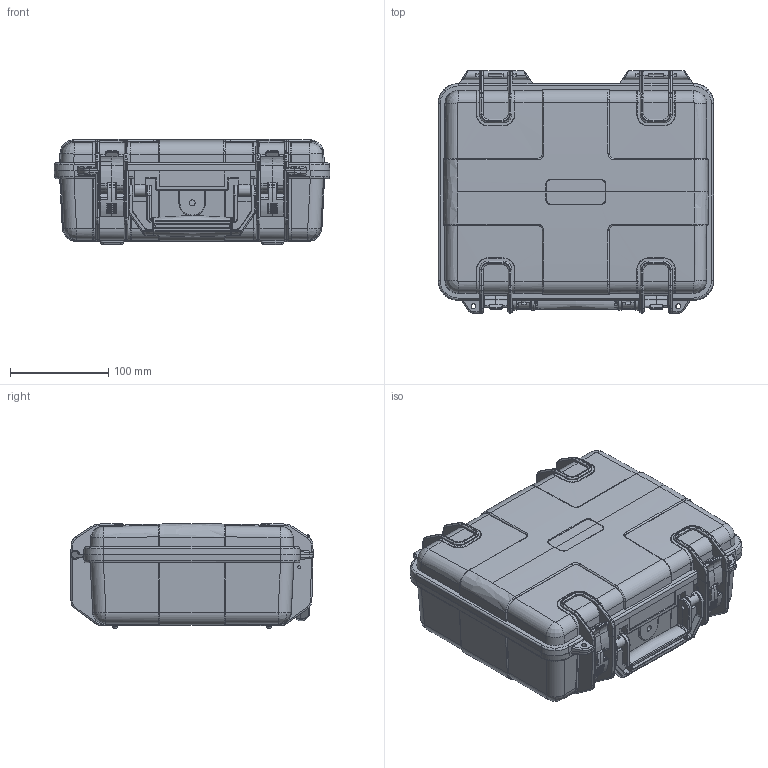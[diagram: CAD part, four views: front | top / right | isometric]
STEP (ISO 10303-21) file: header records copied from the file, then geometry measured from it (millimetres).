
FILE_DESCRIPTION(('FreeCAD Model'),'2;1');
FILE_NAME('Open CASCADE Shape Model','2024-08-30T09:24:37',( 'Lukas Balthasar Pank'),('Astera LED Technology GmbH'), 'Open CASCADE STEP processor 7.6','FreeCAD','Unknown');
FILE_SCHEMA(('AUTOMOTIVE_DESIGN { 1 0 10303 214 1 1 1 1 }'));
Length unit declared in the file: millimetre
Products named in the file (41): FP7-ACCCSE_Accessory Case for LunaBulb__Closed_3Dstep_V2; Case; Bottom_box; Cover_Box; Latch; Latch-A; handle
Assembly tree (40 placements, depth 4):
  FP7-ACCCSE_Accessory Case for LunaBulb__Closed_3Dstep_V2
    Case
      Bottom_box
      Cover_Box
        Cover_Box
        Cover_Box
        Cover_Box
      Latch
        Latch
        Latch
        Latch
        Latch
        Latch
        Latch
        Latch
        Latch
        Latch
        Latch
        Latch
        Latch
        Latch
        Latch
        Latch
        Latch
        Latch
        Latch
        Latch
        Latch
        Latch
        Latch
        Latch
        Latch
      Latch-A
        Latch-A
        Latch-A
        Latch-A
        Latch-A
      handle
        handle
        handle
        handle
Bounding box: 280.26 x 246 x 107.01 mm (x, y, z)
Volume: 518774.9 mm3; surface area: 490267.5 mm2
Topology: 4 solids, 33 shells, 2482 faces, 6532 edges, 4032 vertices
Faces by surface type: plane 773, cylinder 674, bspline 630, cone 253, torus 142, sphere 10
Entity records: 126421 total; most frequent: CARTESIAN_POINT 72257, ORIENTED_EDGE 12712, DIRECTION 8441, EDGE_CURVE 6526, VERTEX_POINT 4032, AXIS2_PLACEMENT_3D 3046, B_SPLINE_CURVE_WITH_KNOTS 2795, FACE_BOUND 2544
